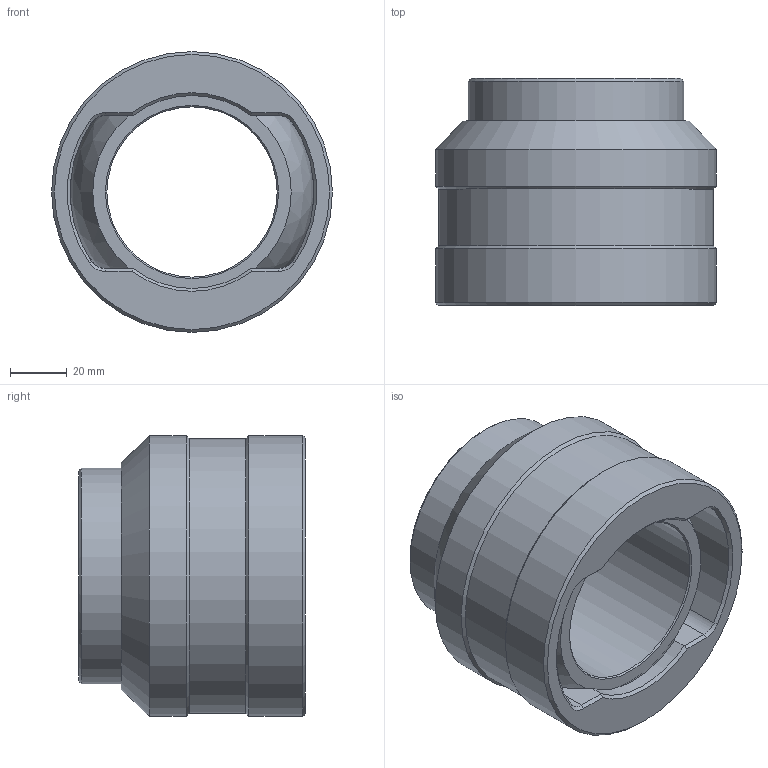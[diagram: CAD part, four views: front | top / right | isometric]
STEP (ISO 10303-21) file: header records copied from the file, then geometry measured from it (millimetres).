
FILE_DESCRIPTION(('STEP AP214'),'1');
FILE_NAME('C:/Projets/Serie 10.xx.xx/10.11.06.step','2011-11-10T15:40:07',(' '),(' '),'Spatial InterOp 3D',' ',' ');
FILE_SCHEMA(('automotive_design'));
Length unit declared in the file: metre
Products named in the file (3): boitier 06; rotule 06; 1
Bounding box: 99 x 80 x 99 mm (x, y, z)
Volume: 282023.9 mm3; surface area: 73720.2 mm2
Topology: 2 solids, 2 shells, 45 faces, 665 edges, 1192 vertices
Faces by surface type: cone 16, cylinder 14, plane 13, sphere 2
Full cylindrical faces by diameter (mm): 60 x1, 68 x1, 76 x1, 97 x1, 99 x2
Entity records: 8425 total; most frequent: CARTESIAN_POINT 828, DIRECTION 789, STYLED_ITEM 613, PRESENTATION_STYLE_ASSIGNMENT 613, COLOUR_RGB 613, LINE 587, VECTOR 587, TRIMMED_CURVE 568
